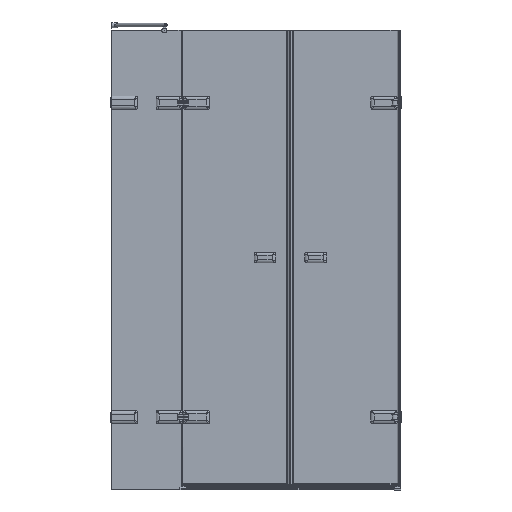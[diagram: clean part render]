
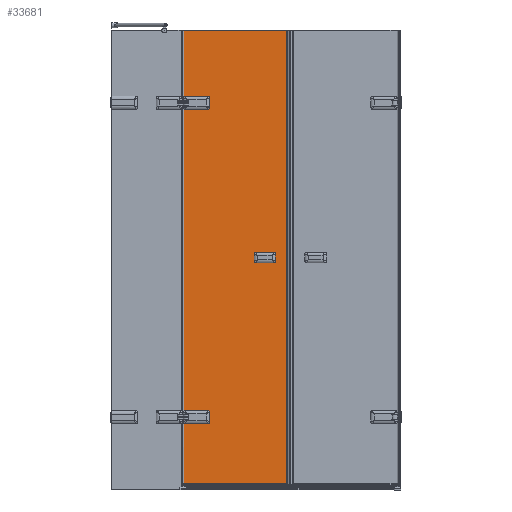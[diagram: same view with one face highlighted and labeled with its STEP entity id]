
A CAD part, front view. The second image highlights one B-rep face of the part: STEP entity #33681.
In plain terms, the highlighted planar face has unit normal (0, -1, 0).
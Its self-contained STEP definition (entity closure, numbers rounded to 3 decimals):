
#1099=CIRCLE($,#35732,5.);
#1136=CIRCLE($,#35805,5.);
#1137=CIRCLE($,#35808,5.);
#1139=CIRCLE($,#35812,5.);
#1183=CIRCLE($,#35942,5.);
#1184=CIRCLE($,#35943,5.);
#1185=CIRCLE($,#35944,5.);
#1186=CIRCLE($,#35945,5.);
#3003=FACE_OUTER_BOUND($,#4909,.T.);
#4909=EDGE_LOOP($,(#23179,#23180,#23181,#23182,#23183,#23184,#23185,#23186,
#23187,#23188,#23189,#23190,#23191,#23192,#23193,#23194,#23195,#23196,#23197,
#23198));
#7335=LINE($,#66614,#10375);
#7339=LINE($,#66626,#10379);
#7343=LINE($,#66637,#10383);
#7413=LINE($,#67270,#10453);
#7417=LINE($,#67294,#10457);
#7418=LINE($,#67296,#10458);
#7419=LINE($,#67298,#10459);
#7420=LINE($,#67300,#10460);
#7421=LINE($,#67302,#10461);
#7422=LINE($,#67306,#10462);
#7423=LINE($,#67310,#10463);
#7424=LINE($,#67314,#10464);
#10375=VECTOR($,#40286,96.);
#10379=VECTOR($,#40298,42.);
#10383=VECTOR($,#40310,96.);
#10453=VECTOR($,#40620,1254.861);
#10457=VECTOR($,#40638,252.83);
#10458=VECTOR($,#40639,430.247);
#10459=VECTOR($,#40640,1875.4);
#10460=VECTOR($,#40641,430.247);
#10461=VECTOR($,#40642,277.43);
#10462=VECTOR($,#40645,96.);
#10463=VECTOR($,#40648,42.);
#10464=VECTOR($,#40651,96.);
#13551=VERTEX_POINT($,#66294);
#13552=VERTEX_POINT($,#66303);
#13655=VERTEX_POINT($,#66598);
#13657=VERTEX_POINT($,#66609);
#13658=VERTEX_POINT($,#66613);
#13660=VERTEX_POINT($,#66619);
#13662=VERTEX_POINT($,#66625);
#13664=VERTEX_POINT($,#66631);
#13740=VERTEX_POINT($,#67269);
#13745=VERTEX_POINT($,#67293);
#13746=VERTEX_POINT($,#67295);
#13747=VERTEX_POINT($,#67297);
#13748=VERTEX_POINT($,#67299);
#13749=VERTEX_POINT($,#67301);
#13750=VERTEX_POINT($,#67303);
#13751=VERTEX_POINT($,#67305);
#13752=VERTEX_POINT($,#67307);
#13753=VERTEX_POINT($,#67309);
#13754=VERTEX_POINT($,#67311);
#13755=VERTEX_POINT($,#67313);
#16950=EDGE_CURVE($,#13552,#13551,#1099,.T.);
#17101=EDGE_CURVE($,#13655,#13657,#1136,.T.);
#17102=EDGE_CURVE($,#13657,#13658,#7335,.T.);
#17105=EDGE_CURVE($,#13658,#13660,#1137,.T.);
#17108=EDGE_CURVE($,#13660,#13662,#7339,.T.);
#17111=EDGE_CURVE($,#13662,#13664,#1139,.T.);
#17114=EDGE_CURVE($,#13664,#13552,#7343,.T.);
#17252=EDGE_CURVE($,#13740,#13655,#7413,.T.);
#17261=EDGE_CURVE($,#13551,#13745,#7417,.T.);
#17262=EDGE_CURVE($,#13745,#13746,#7418,.T.);
#17263=EDGE_CURVE($,#13746,#13747,#7419,.T.);
#17264=EDGE_CURVE($,#13748,#13747,#7420,.T.);
#17265=EDGE_CURVE($,#13748,#13749,#7421,.T.);
#17266=EDGE_CURVE($,#13749,#13750,#1183,.T.);
#17267=EDGE_CURVE($,#13750,#13751,#7422,.T.);
#17268=EDGE_CURVE($,#13751,#13752,#1184,.T.);
#17269=EDGE_CURVE($,#13752,#13753,#7423,.T.);
#17270=EDGE_CURVE($,#13753,#13754,#1185,.T.);
#17271=EDGE_CURVE($,#13754,#13755,#7424,.T.);
#17272=EDGE_CURVE($,#13755,#13740,#1186,.T.);
#23179=ORIENTED_EDGE($,*,*,#17101,.T.);
#23180=ORIENTED_EDGE($,*,*,#17102,.T.);
#23181=ORIENTED_EDGE($,*,*,#17105,.T.);
#23182=ORIENTED_EDGE($,*,*,#17108,.T.);
#23183=ORIENTED_EDGE($,*,*,#17111,.T.);
#23184=ORIENTED_EDGE($,*,*,#17114,.T.);
#23185=ORIENTED_EDGE($,*,*,#16950,.T.);
#23186=ORIENTED_EDGE($,*,*,#17261,.T.);
#23187=ORIENTED_EDGE($,*,*,#17262,.T.);
#23188=ORIENTED_EDGE($,*,*,#17263,.T.);
#23189=ORIENTED_EDGE($,*,*,#17264,.F.);
#23190=ORIENTED_EDGE($,*,*,#17265,.T.);
#23191=ORIENTED_EDGE($,*,*,#17266,.T.);
#23192=ORIENTED_EDGE($,*,*,#17267,.T.);
#23193=ORIENTED_EDGE($,*,*,#17268,.T.);
#23194=ORIENTED_EDGE($,*,*,#17269,.T.);
#23195=ORIENTED_EDGE($,*,*,#17270,.T.);
#23196=ORIENTED_EDGE($,*,*,#17271,.T.);
#23197=ORIENTED_EDGE($,*,*,#17272,.T.);
#23198=ORIENTED_EDGE($,*,*,#17252,.T.);
#30537=PLANE($,#35941);
#33681=ADVANCED_FACE($,(#3003),#30537,.T.);
#35732=AXIS2_PLACEMENT_3D($,#66304,#40027,#40028);
#35805=AXIS2_PLACEMENT_3D($,#66611,#40282,#40283);
#35808=AXIS2_PLACEMENT_3D($,#66620,#40291,#40292);
#35812=AXIS2_PLACEMENT_3D($,#66632,#40303,#40304);
#35941=AXIS2_PLACEMENT_3D($,#67292,#40636,#40637);
#35942=AXIS2_PLACEMENT_3D($,#67304,#40643,#40644);
#35943=AXIS2_PLACEMENT_3D($,#67308,#40646,#40647);
#35944=AXIS2_PLACEMENT_3D($,#67312,#40649,#40650);
#35945=AXIS2_PLACEMENT_3D($,#67315,#40652,#40653);
#40027=DIRECTION('center_axis',(0.,1.,0.));
#40028=DIRECTION('ref_axis',(1.,0.,0.));
#40282=DIRECTION('center_axis',(0.,1.,0.));
#40283=DIRECTION('ref_axis',(0.,0.,
-1.));
#40286=DIRECTION($,(1.,0.,0.));
#40291=DIRECTION('center_axis',(0.,1.,0.));
#40292=DIRECTION('ref_axis',(-1.,0.,0.));
#40298=DIRECTION($,(0.,0.,-1.));
#40303=DIRECTION('center_axis',(0.,1.,0.));
#40304=DIRECTION('ref_axis',(0.,0.,
1.));
#40310=DIRECTION($,(-1.,0.,0.));
#40620=DIRECTION($,(0.,0.,-1.));
#40636=DIRECTION('center_axis',(0.,-1.,0.));
#40637=DIRECTION('ref_axis',(1.,0.,0.));
#40638=DIRECTION($,(0.,0.,-1.));
#40639=DIRECTION($,(1.,0.,0.));
#40640=DIRECTION($,(0.,0.,1.));
#40641=DIRECTION($,(1.,0.,0.));
#40642=DIRECTION($,(0.,0.,-1.));
#40643=DIRECTION('center_axis',(0.,1.,0.));
#40644=DIRECTION('ref_axis',(0.,0.,
-1.));
#40645=DIRECTION($,(1.,0.,0.));
#40646=DIRECTION('center_axis',(0.,1.,0.));
#40647=DIRECTION('ref_axis',(-1.,0.,0.));
#40648=DIRECTION($,(0.,0.,-1.));
#40649=DIRECTION('center_axis',(0.,1.,0.));
#40650=DIRECTION('ref_axis',(0.,0.,
1.));
#40651=DIRECTION($,(-1.,0.,0.));
#40652=DIRECTION('center_axis',(0.,1.,0.));
#40653=DIRECTION('ref_axis',(1.,0.,0.));
#66294=CARTESIAN_POINT('',(733.938,45.956,-236.625));
#66303=CARTESIAN_POINT('',(738.686,45.956,-240.056));
#66304=CARTESIAN_POINT('Origin',(738.686,45.956,-235.056));
#66598=CARTESIAN_POINT('',(733.938,45.956,-191.486));
#66609=CARTESIAN_POINT('',(738.686,45.956,-188.056));
#66611=CARTESIAN_POINT('Origin',(738.686,45.956,-193.056));
#66613=CARTESIAN_POINT('',(834.686,45.956,-188.056));
#66614=CARTESIAN_POINT($,(783.686,45.956,-188.056));
#66619=CARTESIAN_POINT('',(839.686,45.956,-193.056));
#66620=CARTESIAN_POINT('Origin',(834.686,45.956,-193.056));
#66625=CARTESIAN_POINT('',(839.686,45.956,-235.056));
#66626=CARTESIAN_POINT($,(839.686,45.956,-364.556));
#66631=CARTESIAN_POINT('',(834.686,45.956,-240.056));
#66632=CARTESIAN_POINT('Origin',(834.686,45.956,-235.056));
#66637=CARTESIAN_POINT($,(735.686,45.956,-240.056));
#67269=CARTESIAN_POINT('',(733.938,45.956,1063.375));
#67270=CARTESIAN_POINT($,(733.938,45.956,-202.056));
#67292=CARTESIAN_POINT('Origin',(732.686,45.956,-494.056));
#67293=CARTESIAN_POINT('',(733.938,45.956,-489.456));
#67294=CARTESIAN_POINT($,(733.938,45.956,-224.056));
#67295=CARTESIAN_POINT('',(1164.186,45.956,-489.456));
#67296=CARTESIAN_POINT($,(732.686,45.956,-489.456));
#67297=CARTESIAN_POINT('',(1164.186,45.956,1385.944));
#67298=CARTESIAN_POINT($,(1164.186,45.956,-494.056));
#67299=CARTESIAN_POINT('',(733.938,45.956,1385.944));
#67300=CARTESIAN_POINT($,(732.686,45.956,1385.944));
#67301=CARTESIAN_POINT('',(733.938,45.956,1108.514));
#67302=CARTESIAN_POINT($,(733.938,45.956,1095.944));
#67303=CARTESIAN_POINT('',(738.686,45.956,1111.944));
#67304=CARTESIAN_POINT('Origin',(738.686,45.956,1106.944));
#67305=CARTESIAN_POINT('',(834.686,45.956,1111.944));
#67306=CARTESIAN_POINT($,(783.686,45.956,1111.944));
#67307=CARTESIAN_POINT('',(839.686,45.956,1106.944));
#67308=CARTESIAN_POINT('Origin',(834.686,45.956,1106.944));
#67309=CARTESIAN_POINT('',(839.686,45.956,1064.944));
#67310=CARTESIAN_POINT($,(839.686,45.956,285.444));
#67311=CARTESIAN_POINT('',(834.686,45.956,1059.944));
#67312=CARTESIAN_POINT('Origin',(834.686,45.956,1064.944));
#67313=CARTESIAN_POINT('',(738.686,45.956,1059.944));
#67314=CARTESIAN_POINT($,(735.686,45.956,1059.944));
#67315=CARTESIAN_POINT('Origin',(738.686,45.956,1064.944));
